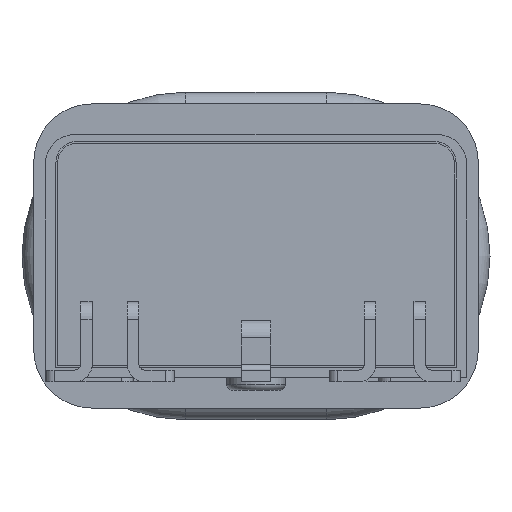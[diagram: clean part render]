
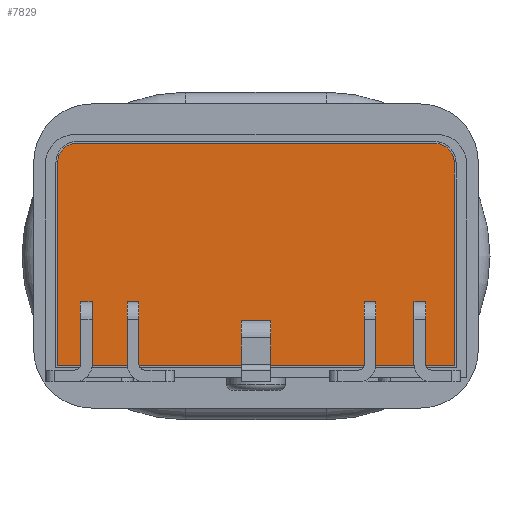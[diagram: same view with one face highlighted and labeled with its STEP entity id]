
A CAD part, front view. The second image highlights one B-rep face of the part: STEP entity #7829.
In plain terms, the highlighted planar face has unit normal (0, -1, 0).
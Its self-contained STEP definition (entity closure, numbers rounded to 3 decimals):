
#1753=DIRECTION('',(0.,0.,-1.));
#1754=VECTOR('',#1753,0.5);
#1755=CARTESIAN_POINT('',(1.85,-11.8,-0.78));
#1756=LINE('',#1755,#1754);
#1757=DIRECTION('',(-1.,0.,0.));
#1758=VECTOR('',#1757,0.2);
#1759=CARTESIAN_POINT('',(2.05,-11.8,-1.28));
#1760=LINE('',#1759,#1758);
#1761=DIRECTION('',(0.,0.,1.));
#1762=VECTOR('',#1761,0.5);
#1763=CARTESIAN_POINT('',(2.05,-11.8,-1.28));
#1764=LINE('',#1763,#1762);
#1765=DIRECTION('',(-1.,0.,0.));
#1766=VECTOR('',#1765,0.2);
#1767=CARTESIAN_POINT('',(2.05,-11.8,-0.78));
#1768=LINE('',#1767,#1766);
#1769=DIRECTION('',(0.,0.,-1.));
#1770=VECTOR('',#1769,0.5);
#1771=CARTESIAN_POINT('',(2.7,-11.8,-0.78));
#1772=LINE('',#1771,#1770);
#1773=DIRECTION('',(-1.,0.,0.));
#1774=VECTOR('',#1773,0.2);
#1775=CARTESIAN_POINT('',(2.9,-11.8,-1.28));
#1776=LINE('',#1775,#1774);
#1777=DIRECTION('',(0.,0.,1.));
#1778=VECTOR('',#1777,0.5);
#1779=CARTESIAN_POINT('',(2.9,-11.8,-1.28));
#1780=LINE('',#1779,#1778);
#1781=DIRECTION('',(-1.,0.,0.));
#1782=VECTOR('',#1781,0.2);
#1783=CARTESIAN_POINT('',(2.9,-11.8,-0.78));
#1784=LINE('',#1783,#1782);
#1785=DIRECTION('',(0.,0.,-1.));
#1786=VECTOR('',#1785,0.5);
#1787=CARTESIAN_POINT('',(-2.2,-11.8,-0.78));
#1788=LINE('',#1787,#1786);
#1789=DIRECTION('',(1.,0.,0.));
#1790=VECTOR('',#1789,0.2);
#1791=CARTESIAN_POINT('',(-2.2,-11.8,-1.28));
#1792=LINE('',#1791,#1790);
#1793=DIRECTION('',(0.,0.,1.));
#1794=VECTOR('',#1793,0.5);
#1795=CARTESIAN_POINT('',(-2.,-11.8,-1.28));
#1796=LINE('',#1795,#1794);
#1797=DIRECTION('',(-1.,0.,0.));
#1798=VECTOR('',#1797,0.2);
#1799=CARTESIAN_POINT('',(-2.,-11.8,-0.78));
#1800=LINE('',#1799,#1798);
#1801=DIRECTION('',(0.,0.,1.));
#1802=VECTOR('',#1801,0.2);
#1803=CARTESIAN_POINT('',(-0.25,-11.8,-1.3));
#1804=LINE('',#1803,#1802);
#1805=DIRECTION('',(1.,0.,0.));
#1806=VECTOR('',#1805,0.5);
#1807=CARTESIAN_POINT('',(-0.25,-11.8,-1.3));
#1808=LINE('',#1807,#1806);
#1809=DIRECTION('',(0.,0.,1.));
#1810=VECTOR('',#1809,0.2);
#1811=CARTESIAN_POINT('',(0.25,-11.8,-1.3));
#1812=LINE('',#1811,#1810);
#1813=DIRECTION('',(1.,0.,0.));
#1814=VECTOR('',#1813,0.5);
#1815=CARTESIAN_POINT('',(-0.25,-11.8,-1.1));
#1816=LINE('',#1815,#1814);
#1817=DIRECTION('',(0.,0.,-1.));
#1818=VECTOR('',#1817,0.5);
#1819=CARTESIAN_POINT('',(-3.,-11.8,-0.78));
#1820=LINE('',#1819,#1818);
#1821=DIRECTION('',(1.,0.,0.));
#1822=VECTOR('',#1821,0.2);
#1823=CARTESIAN_POINT('',(-3.,-11.8,-1.28));
#1824=LINE('',#1823,#1822);
#1825=DIRECTION('',(0.,0.,1.));
#1826=VECTOR('',#1825,0.5);
#1827=CARTESIAN_POINT('',(-2.8,-11.8,-1.28));
#1828=LINE('',#1827,#1826);
#1829=DIRECTION('',(-1.,0.,0.));
#1830=VECTOR('',#1829,0.2);
#1831=CARTESIAN_POINT('',(-2.8,-11.8,-0.78));
#1832=LINE('',#1831,#1830);
#1833=DIRECTION('',(-1.,0.,0.));
#1834=VECTOR('',#1833,6.778);
#1835=CARTESIAN_POINT('',(3.389,-11.8,-1.875));
#1836=LINE('',#1835,#1834);
#1837=DIRECTION('',(0.,0.,1.));
#1838=VECTOR('',#1837,3.478);
#1839=CARTESIAN_POINT('',(-3.389,-11.8,-1.875));
#1840=LINE('',#1839,#1838);
#1841=CARTESIAN_POINT('',(-3.068,-11.8,1.603));
#1842=DIRECTION('',(0.,-1.,0.));
#1843=DIRECTION('',(0.,0.,1.));
#1844=AXIS2_PLACEMENT_3D('',#1841,#1842,#1843);
#1846=DIRECTION('',(1.,0.,0.));
#1847=VECTOR('',#1846,6.122);
#1848=CARTESIAN_POINT('',(-3.068,-11.8,1.925));
#1849=LINE('',#1848,#1847);
#1850=CARTESIAN_POINT('',(3.055,-11.8,1.59));
#1851=DIRECTION('',(0.,-1.,0.));
#1852=DIRECTION('',(1.,0.,0.));
#1853=AXIS2_PLACEMENT_3D('',#1850,#1851,#1852);
#1855=DIRECTION('',(0.,0.,-1.));
#1856=VECTOR('',#1855,3.465);
#1857=CARTESIAN_POINT('',(3.389,-11.8,1.59));
#1858=LINE('',#1857,#1856);
#5305=CARTESIAN_POINT('',(-3.068,-11.8,1.925));
#5306=CARTESIAN_POINT('',(3.055,-11.8,1.925));
#5307=VERTEX_POINT('',#5305);
#5308=VERTEX_POINT('',#5306);
#5309=CARTESIAN_POINT('',(3.389,-11.8,1.59));
#5310=VERTEX_POINT('',#5309);
#5311=CARTESIAN_POINT('',(3.389,-11.8,-1.875));
#5312=VERTEX_POINT('',#5311);
#5313=CARTESIAN_POINT('',(-3.389,-11.8,-1.875));
#5314=CARTESIAN_POINT('',(-3.389,-11.8,1.603));
#5315=VERTEX_POINT('',#5313);
#5316=VERTEX_POINT('',#5314);
#5369=CARTESIAN_POINT('',(-0.25,-11.8,-1.3));
#5370=CARTESIAN_POINT('',(-0.25,-11.8,-1.1));
#5371=VERTEX_POINT('',#5369);
#5372=VERTEX_POINT('',#5370);
#5373=CARTESIAN_POINT('',(0.25,-11.8,-1.3));
#5374=CARTESIAN_POINT('',(0.25,-11.8,-1.1));
#5375=VERTEX_POINT('',#5373);
#5376=VERTEX_POINT('',#5374);
#5385=CARTESIAN_POINT('',(-2.8,-11.8,-0.78));
#5386=CARTESIAN_POINT('',(-3.,-11.8,-0.78));
#5387=VERTEX_POINT('',#5385);
#5388=VERTEX_POINT('',#5386);
#5397=CARTESIAN_POINT('',(-2.,-11.8,-0.78));
#5398=CARTESIAN_POINT('',(-2.2,-11.8,-0.78));
#5399=VERTEX_POINT('',#5397);
#5400=VERTEX_POINT('',#5398);
#5409=CARTESIAN_POINT('',(2.9,-11.8,-0.78));
#5410=CARTESIAN_POINT('',(2.7,-11.8,-0.78));
#5411=VERTEX_POINT('',#5409);
#5412=VERTEX_POINT('',#5410);
#5421=CARTESIAN_POINT('',(2.05,-11.8,-0.78));
#5422=CARTESIAN_POINT('',(1.85,-11.8,-0.78));
#5423=VERTEX_POINT('',#5421);
#5424=VERTEX_POINT('',#5422);
#5433=CARTESIAN_POINT('',(-2.8,-11.8,-1.28));
#5434=VERTEX_POINT('',#5433);
#5441=CARTESIAN_POINT('',(-3.,-11.8,-1.28));
#5442=VERTEX_POINT('',#5441);
#5451=CARTESIAN_POINT('',(-2.2,-11.8,-1.28));
#5452=VERTEX_POINT('',#5451);
#5463=CARTESIAN_POINT('',(-2.,-11.8,-1.28));
#5464=VERTEX_POINT('',#5463);
#5483=CARTESIAN_POINT('',(2.9,-11.8,-1.28));
#5484=CARTESIAN_POINT('',(2.7,-11.8,-1.28));
#5485=VERTEX_POINT('',#5483);
#5486=VERTEX_POINT('',#5484);
#5487=CARTESIAN_POINT('',(2.05,-11.8,-1.28));
#5488=CARTESIAN_POINT('',(1.85,-11.8,-1.28));
#5489=VERTEX_POINT('',#5487);
#5490=VERTEX_POINT('',#5488);
#7760=CARTESIAN_POINT('',(0.,-11.8,0.));
#7761=DIRECTION('',(0.,-1.,0.));
#7762=DIRECTION('',(1.,0.,0.));
#7763=AXIS2_PLACEMENT_3D('',#7760,#7761,#7762);
#7764=PLANE('',#7763);
#7766=ORIENTED_EDGE('',*,*,#7765,.T.);
#7768=ORIENTED_EDGE('',*,*,#7767,.T.);
#7770=ORIENTED_EDGE('',*,*,#7769,.F.);
#7772=ORIENTED_EDGE('',*,*,#7771,.T.);
#7774=ORIENTED_EDGE('',*,*,#7773,.F.);
#7776=ORIENTED_EDGE('',*,*,#7775,.T.);
#7777=EDGE_LOOP('',(#7766,#7768,#7770,#7772,#7774,#7776));
#7778=FACE_OUTER_BOUND('',#7777,.F.);
#7780=ORIENTED_EDGE('',*,*,#7779,.T.);
#7782=ORIENTED_EDGE('',*,*,#7781,.F.);
#7784=ORIENTED_EDGE('',*,*,#7783,.T.);
#7786=ORIENTED_EDGE('',*,*,#7785,.T.);
#7787=EDGE_LOOP('',(#7780,#7782,#7784,#7786));
#7788=FACE_BOUND('',#7787,.F.);
#7790=ORIENTED_EDGE('',*,*,#7789,.T.);
#7792=ORIENTED_EDGE('',*,*,#7791,.F.);
#7794=ORIENTED_EDGE('',*,*,#7793,.T.);
#7796=ORIENTED_EDGE('',*,*,#7795,.T.);
#7797=EDGE_LOOP('',(#7790,#7792,#7794,#7796));
#7798=FACE_BOUND('',#7797,.F.);
#7800=ORIENTED_EDGE('',*,*,#7799,.T.);
#7802=ORIENTED_EDGE('',*,*,#7801,.T.);
#7804=ORIENTED_EDGE('',*,*,#7803,.T.);
#7806=ORIENTED_EDGE('',*,*,#7805,.T.);
#7807=EDGE_LOOP('',(#7800,#7802,#7804,#7806));
#7808=FACE_BOUND('',#7807,.F.);
#7810=ORIENTED_EDGE('',*,*,#7809,.F.);
#7812=ORIENTED_EDGE('',*,*,#7811,.T.);
#7814=ORIENTED_EDGE('',*,*,#7813,.T.);
#7816=ORIENTED_EDGE('',*,*,#7815,.F.);
#7817=EDGE_LOOP('',(#7810,#7812,#7814,#7816));
#7818=FACE_BOUND('',#7817,.F.);
#7820=ORIENTED_EDGE('',*,*,#7819,.T.);
#7822=ORIENTED_EDGE('',*,*,#7821,.T.);
#7824=ORIENTED_EDGE('',*,*,#7823,.T.);
#7826=ORIENTED_EDGE('',*,*,#7825,.T.);
#7827=EDGE_LOOP('',(#7820,#7822,#7824,#7826));
#7828=FACE_BOUND('',#7827,.F.);
#1845=CIRCLE('',#1844,0.322);
#1854=CIRCLE('',#1853,0.335);
#7765=EDGE_CURVE('',#5312,#5315,#1836,.T.);
#7767=EDGE_CURVE('',#5315,#5316,#1840,.T.);
#7769=EDGE_CURVE('',#5307,#5316,#1845,.T.);
#7771=EDGE_CURVE('',#5307,#5308,#1849,.T.);
#7773=EDGE_CURVE('',#5310,#5308,#1854,.T.);
#7775=EDGE_CURVE('',#5310,#5312,#1858,.T.);
#7779=EDGE_CURVE('',#5424,#5490,#1756,.T.);
#7781=EDGE_CURVE('',#5489,#5490,#1760,.T.);
#7783=EDGE_CURVE('',#5489,#5423,#1764,.T.);
#7785=EDGE_CURVE('',#5423,#5424,#1768,.T.);
#7789=EDGE_CURVE('',#5412,#5486,#1772,.T.);
#7791=EDGE_CURVE('',#5485,#5486,#1776,.T.);
#7793=EDGE_CURVE('',#5485,#5411,#1780,.T.);
#7795=EDGE_CURVE('',#5411,#5412,#1784,.T.);
#7799=EDGE_CURVE('',#5400,#5452,#1788,.T.);
#7801=EDGE_CURVE('',#5452,#5464,#1792,.T.);
#7803=EDGE_CURVE('',#5464,#5399,#1796,.T.);
#7805=EDGE_CURVE('',#5399,#5400,#1800,.T.);
#7809=EDGE_CURVE('',#5371,#5372,#1804,.T.);
#7811=EDGE_CURVE('',#5371,#5375,#1808,.T.);
#7813=EDGE_CURVE('',#5375,#5376,#1812,.T.);
#7815=EDGE_CURVE('',#5372,#5376,#1816,.T.);
#7819=EDGE_CURVE('',#5388,#5442,#1820,.T.);
#7821=EDGE_CURVE('',#5442,#5434,#1824,.T.);
#7823=EDGE_CURVE('',#5434,#5387,#1828,.T.);
#7825=EDGE_CURVE('',#5387,#5388,#1832,.T.);
#7829=ADVANCED_FACE('',(#7778,#7788,#7798,#7808,#7818,#7828),#7764,.T.);
